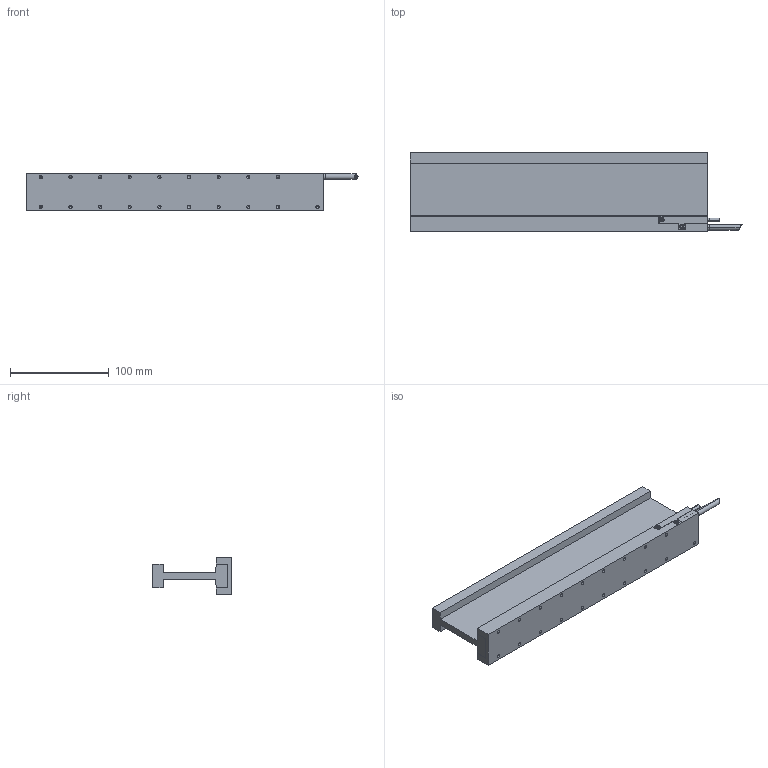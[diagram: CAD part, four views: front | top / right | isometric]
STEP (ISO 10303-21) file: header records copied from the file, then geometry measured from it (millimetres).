
FILE_DESCRIPTION (( 'STEP AP214' ), '1' );
FILE_NAME ('DX50F-C5.STEP', '2021-07-16T04:10:50', ( '' ), ( '' ), 'SwSTEP 2.0', 'SolidWorks 2020', '' );
FILE_SCHEMA (( 'AUTOMOTIVE_DESIGN' ));
Length unit declared in the file: millimetre
Products named in the file (6): DX50FH-X.X-ZZ-00 (CUSTOMER); CBL_MTR_PWR_SS_4C2C_SA (#3620-1); TIM-PC 8850FT-LV + TIM EH-9_C5; CBL_HALL_PIX_ZZ_X.X; DX50F-C5; DX50FCX01_C5 (CUSTOMER)
Assembly tree (5 placements, depth 2):
  DX50F-C5
    TIM-PC 8850FT-LV + TIM EH-9_C5
    CBL_MTR_PWR_SS_4C2C_SA (#3620-1)
    DX50FCX01_C5 (CUSTOMER)
    DX50FH-X.X-ZZ-00 (CUSTOMER)
    CBL_HALL_PIX_ZZ_X.X
Bounding box: 336 x 80 x 38.2 mm (x, y, z)
Volume: 371332.5 mm3; surface area: 116327.6 mm2
Topology: 8 solids, 8 shells, 222 faces, 530 edges, 310 vertices
Faces by surface type: plane 81, cylinder 81, cone 54, torus 6
Entity records: 7771 total; most frequent: CARTESIAN_POINT 1222, DIRECTION 1104, ORIENTED_EDGE 980, EDGE_CURVE 490, AXIS2_PLACEMENT_3D 401, VERTEX_POINT 310, LINE 302, VECTOR 302
